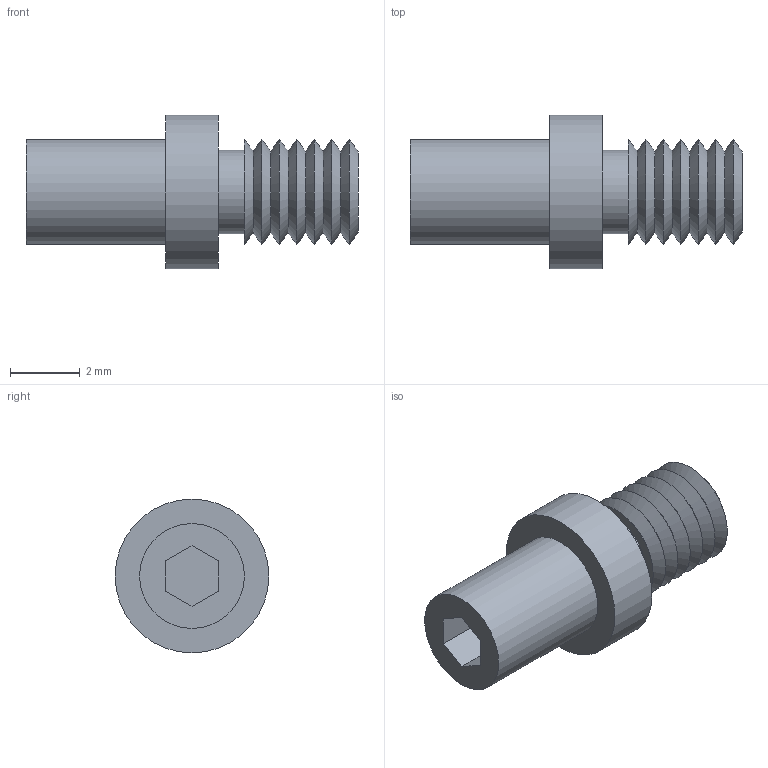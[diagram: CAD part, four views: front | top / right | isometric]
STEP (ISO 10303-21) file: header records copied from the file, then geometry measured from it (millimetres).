
FILE_DESCRIPTION((''),'1');
FILE_NAME('H:/図庫/国内ﾕﾆｯﾄ/ﾓﾉﾀﾛｳ/ホームページ用CAD図/ネジ付き', '2020-04-29T02:47:04',(''), (''), 'KCM Version 1.1.1442.0', 'Kubotek KeyCreator', '');
FILE_SCHEMA(('AUTOMOTIVE_DESIGN'));
Length unit declared in the file: millimetre
Bounding box: 9.5 x 4.4 x 4.4 mm (x, y, z)
Surface area: 150 mm2 (no closed solid volume)
Topology: 0 solids, 28 shells, 28 faces, 92 edges, 76 vertices
Faces by surface type: cone 13, plane 12, cylinder 3
Full cylindrical faces by diameter (mm): 2.4 x1, 3 x1, 4.4 x1
Entity records: 1070 total; most frequent: CARTESIAN_POINT 197, DIRECTION 190, ORIENTED_EDGE 108, EDGE_CURVE 92, VERTEX_POINT 76, AXIS2_PLACEMENT_3D 69, VECTOR 52, LINE 52
